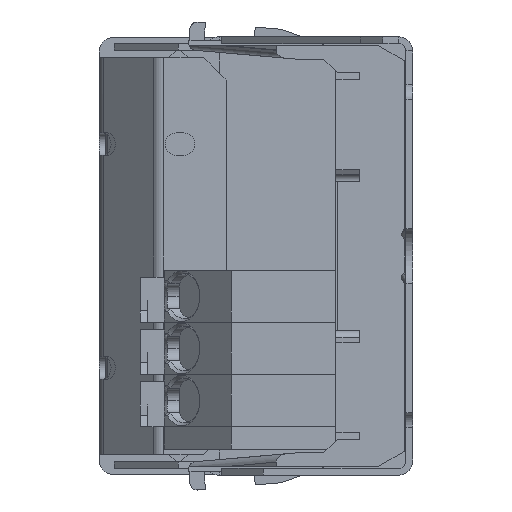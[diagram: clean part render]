
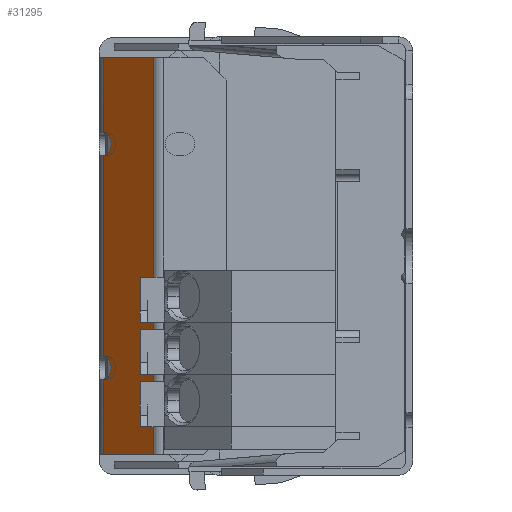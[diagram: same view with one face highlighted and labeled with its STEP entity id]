
A CAD part, left-side view. The second image highlights one B-rep face of the part: STEP entity #31295.
In plain terms, the highlighted planar face has unit normal (-0.707, 0.707, 0).
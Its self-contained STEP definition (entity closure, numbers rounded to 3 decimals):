
#485 = CARTESIAN_POINT ( 'NONE',  ( -1.142, 20.736, 8.25 ) ) ;
#712 = ORIENTED_EDGE ( 'NONE', *, *, #29625, .F. ) ;
#794 = EDGE_CURVE ( 'NONE', #17998, #15592, #8932, .T. ) ;
#2573 = DIRECTION ( 'NONE',  ( 0., 0., -1. ) ) ;
#2957 = CARTESIAN_POINT ( 'NONE',  ( -4.536, 17.342, -14.65 ) ) ;
#3459 = AXIS2_PLACEMENT_3D ( 'NONE', #26686, #10673, #29362 ) ;
#3491 = CARTESIAN_POINT ( 'NONE',  ( -1.142, 20.736, -14.65 ) ) ;
#4448 = VERTEX_POINT ( 'NONE', #32102 ) ;
#4817 = CIRCLE ( 'NONE', #3459, 0.75 ) ;
#4901 = ORIENTED_EDGE ( 'NONE', *, *, #31599, .T. ) ;
#5317 = LINE ( 'NONE', #28116, #10745 ) ;
#5491 = CARTESIAN_POINT ( 'NONE',  ( -4.536, 17.342, 13.3 ) ) ;
#5881 = EDGE_CURVE ( 'NONE', #28769, #4448, #34238, .T. ) ;
#5942 = DIRECTION ( 'NONE',  ( -0.707, 0.707, 0. ) ) ;
#8932 = LINE ( 'NONE', #32089, #29369 ) ;
#9528 = EDGE_CURVE ( 'NONE', #25245, #12465, #31260, .T. ) ;
#9670 = EDGE_CURVE ( 'NONE', #21720, #34053, #5317, .T. ) ;
#10010 = CARTESIAN_POINT ( 'NONE',  ( -0.608, 21.27, 13.3 ) ) ;
#10237 = CARTESIAN_POINT ( 'NONE',  ( -1.142, 20.736, 13.3 ) ) ;
#10462 = CARTESIAN_POINT ( 'NONE',  ( -1.142, 20.736, -8.25 ) ) ;
#10673 = DIRECTION ( 'NONE',  ( -0.707, 0.707, 0. ) ) ;
#10745 = VECTOR ( 'NONE', #22994, 1000. ) ;
#11180 = PLANE ( 'NONE',  #26192 ) ;
#11332 = EDGE_CURVE ( 'NONE', #21720, #28769, #31309, .T. ) ;
#12465 = VERTEX_POINT ( 'NONE', #23614 ) ;
#12933 = EDGE_LOOP ( 'NONE', ( #16004, #18719, #26145, #712, #15793, #26697, #33039, #4901 ) ) ;
#13265 = CIRCLE ( 'NONE', #15170, 0.75 ) ;
#13750 = LINE ( 'NONE', #28850, #34230 ) ;
#15170 = AXIS2_PLACEMENT_3D ( 'NONE', #34588, #18569, #2573 ) ;
#15418 = EDGE_CURVE ( 'NONE', #17998, #12465, #4817, .T. ) ;
#15549 = DIRECTION ( 'NONE',  ( -0.707, -0.707, 0. ) ) ;
#15592 = VERTEX_POINT ( 'NONE', #16404 ) ;
#15793 = ORIENTED_EDGE ( 'NONE', *, *, #9528, .T. ) ;
#16004 = ORIENTED_EDGE ( 'NONE', *, *, #5881, .F. ) ;
#16222 = VECTOR ( 'NONE', #27446, 1000. ) ;
#16404 = CARTESIAN_POINT ( 'NONE',  ( -1.142, 20.736, -13.3 ) ) ;
#17998 = VERTEX_POINT ( 'NONE', #10462 ) ;
#18569 = DIRECTION ( 'NONE',  ( -0.707, 0.707, 0. ) ) ;
#18719 = ORIENTED_EDGE ( 'NONE', *, *, #11332, .F. ) ;
#20784 = DIRECTION ( 'NONE',  ( -0.707, -0.707, 0. ) ) ;
#21461 = DIRECTION ( 'NONE',  ( 0., 0., -1. ) ) ;
#21546 = DIRECTION ( 'NONE',  ( 0., 0., -1. ) ) ;
#21720 = VERTEX_POINT ( 'NONE', #10237 ) ;
#21957 = CARTESIAN_POINT ( 'NONE',  ( -0.608, 21.27, -14.65 ) ) ;
#22744 = CARTESIAN_POINT ( 'NONE',  ( -1.142, 20.736, 6.75 ) ) ;
#22994 = DIRECTION ( 'NONE',  ( 0., 0., -1. ) ) ;
#23614 = CARTESIAN_POINT ( 'NONE',  ( -1.142, 20.736, -6.75 ) ) ;
#24214 = VECTOR ( 'NONE', #20784, 1000. ) ;
#24657 = DIRECTION ( 'NONE',  ( 0., 0., -1. ) ) ;
#25245 = VERTEX_POINT ( 'NONE', #22744 ) ;
#26145 = ORIENTED_EDGE ( 'NONE', *, *, #9670, .T. ) ;
#26192 = AXIS2_PLACEMENT_3D ( 'NONE', #21957, #5942, #24657 ) ;
#26686 = CARTESIAN_POINT ( 'NONE',  ( -1.124, 20.754, -7.5 ) ) ;
#26697 = ORIENTED_EDGE ( 'NONE', *, *, #15418, .F. ) ;
#27446 = DIRECTION ( 'NONE',  ( 0., 0., -1. ) ) ;
#28116 = CARTESIAN_POINT ( 'NONE',  ( -1.142, 20.736, -14.65 ) ) ;
#28769 = VERTEX_POINT ( 'NONE', #5491 ) ;
#28850 = CARTESIAN_POINT ( 'NONE',  ( -0.608, 21.27, -13.3 ) ) ;
#29362 = DIRECTION ( 'NONE',  ( 0., 0., 1. ) ) ;
#29369 = VECTOR ( 'NONE', #21461, 1000. ) ;
#29625 = EDGE_CURVE ( 'NONE', #25245, #34053, #13265, .T. ) ;
#30489 = FACE_OUTER_BOUND ( 'NONE', #12933, .T. ) ;
#31260 = LINE ( 'NONE', #3491, #16222 ) ;
#31295 = ADVANCED_FACE ( 'NONE', ( #30489 ), #11180, .T. ) ;
#31309 = LINE ( 'NONE', #10010, #24214 ) ;
#31599 = EDGE_CURVE ( 'NONE', #15592, #4448, #13750, .T. ) ;
#32089 = CARTESIAN_POINT ( 'NONE',  ( -1.142, 20.736, -14.65 ) ) ;
#32102 = CARTESIAN_POINT ( 'NONE',  ( -4.536, 17.342, -13.3 ) ) ;
#33039 = ORIENTED_EDGE ( 'NONE', *, *, #794, .T. ) ;
#33428 = VECTOR ( 'NONE', #21546, 1000. ) ;
#34053 = VERTEX_POINT ( 'NONE', #485 ) ;
#34230 = VECTOR ( 'NONE', #15549, 1000. ) ;
#34238 = LINE ( 'NONE', #2957, #33428 ) ;
#34588 = CARTESIAN_POINT ( 'NONE',  ( -1.124, 20.754, 7.5 ) ) ;
